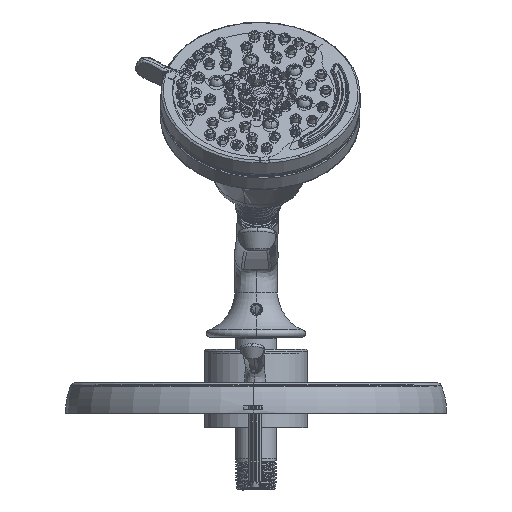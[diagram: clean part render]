
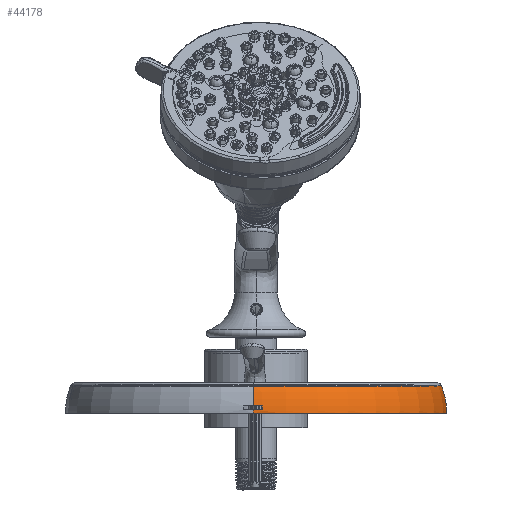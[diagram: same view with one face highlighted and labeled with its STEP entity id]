
A CAD part, front view. The second image highlights one B-rep face of the part: STEP entity #44178.
In plain terms, the highlighted toroidal (fillet/blend) face has major radius 57.353 mm and minor radius 38.1 mm.
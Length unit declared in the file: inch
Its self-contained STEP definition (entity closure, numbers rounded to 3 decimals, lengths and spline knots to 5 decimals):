
#315 = CIRCLE ( 'NONE', #21613, 3.74997 ) ;
#486 = ORIENTED_EDGE ( 'NONE', *, *, #48682, .T. ) ;
#3060 = CARTESIAN_POINT ( 'NONE',  ( 0.12031, 6.25075, 0.14339 ) ) ;
#3237 = AXIS2_PLACEMENT_3D ( 'NONE', #55073, #13820, #89098 ) ;
#4973 = CIRCLE ( 'NONE', #3237, 3.65177 ) ;
#6900 = CIRCLE ( 'NONE', #21142, 1.5 ) ;
#6923 = CARTESIAN_POINT ( 'NONE',  ( 0.19953, 13.7515, 0.05999 ) ) ;
#7556 = DIRECTION ( 'NONE',  ( -0.016, -1., 0. ) ) ;
#7860 = DIRECTION ( 'NONE',  ( 0.016, 1., 0. ) ) ;
#8605 = CARTESIAN_POINT ( 'NONE',  ( 0.22476, 13.75074, 0.04 ) ) ;
#8884 = CARTESIAN_POINT ( 'NONE',  ( 0., 10., 0. ) ) ;
#9547 = VERTEX_POINT ( 'NONE', #92476 ) ;
#11819 = CARTESIAN_POINT ( 'NONE',  ( 0.05816, 13.65131, 0.55443 ) ) ;
#11982 = CARTESIAN_POINT ( 'NONE',  ( 0.12025, 6.247, 0.09672 ) ) ;
#12795 = CARTESIAN_POINT ( 'NONE',  ( -0.05972, 6.25051, 0.155 ) ) ;
#13820 = DIRECTION ( 'NONE',  ( 0., 0., -1. ) ) ;
#17251 = DIRECTION ( 'NONE',  ( 0., 0., -1. ) ) ;
#17534 = EDGE_CURVE ( 'NONE', #77419, #24711, #315, .T. ) ;
#17782 = VERTEX_POINT ( 'NONE', #64576 ) ;
#18314 = CARTESIAN_POINT ( 'NONE',  ( 0.22477, 13.75127, 0.00666 ) ) ;
#18426 = ORIENTED_EDGE ( 'NONE', *, *, #33464, .T. ) ;
#19407 = CARTESIAN_POINT ( 'NONE',  ( -0.05816, 6.34869, 0.55443 ) ) ;
#20470 = DIRECTION ( 'NONE',  ( -1., 0.016, 0. ) ) ;
#21013 = DIRECTION ( 'NONE',  ( -0.016, -1., 0. ) ) ;
#21142 = AXIS2_PLACEMENT_3D ( 'NONE', #46994, #74153, #65799 ) ;
#21613 = AXIS2_PLACEMENT_3D ( 'NONE', #83659, #30837, #7860 ) ;
#21865 = CARTESIAN_POINT ( 'NONE',  ( 0.1848, 13.75314, 0.03061 ) ) ;
#21894 = FACE_OUTER_BOUND ( 'NONE', #28018, .T. ) ;
#24003 = ORIENTED_EDGE ( 'NONE', *, *, #102015, .F. ) ;
#24711 = VERTEX_POINT ( 'NONE', #25262 ) ;
#25262 = CARTESIAN_POINT ( 'NONE',  ( 0.12032, 6.25196, 0.155 ) ) ;
#28018 = EDGE_LOOP ( 'NONE', ( #77772, #99865, #60243, #34970, #486, #64589, #66783, #106186, #24003, #37711, #18426, #49691 ) ) ;
#30265 = AXIS2_PLACEMENT_3D ( 'NONE', #37166, #20470, #21013 ) ;
#30588 = EDGE_CURVE ( 'NONE', #84080, #92352, #44022, .T. ) ;
#30837 = DIRECTION ( 'NONE',  ( 0., 0., 1. ) ) ;
#31169 = EDGE_CURVE ( 'NONE', #92352, #43684, #52323, .T. ) ;
#33099 = AXIS2_PLACEMENT_3D ( 'NONE', #35897, #69917, #79898 ) ;
#33464 = EDGE_CURVE ( 'NONE', #17782, #57582, #54417, .T. ) ;
#34258 = CARTESIAN_POINT ( 'NONE',  ( -0.03596, 7.74229, 0. ) ) ;
#34919 = AXIS2_PLACEMENT_3D ( 'NONE', #38062, #53292, #70022 ) ;
#34970 = ORIENTED_EDGE ( 'NONE', *, *, #68013, .T. ) ;
#35355 = CARTESIAN_POINT ( 'NONE',  ( 0., 10., 0.085 ) ) ;
#35897 = CARTESIAN_POINT ( 'NONE',  ( 0., 10., 0.03061 ) ) ;
#36038 = VERTEX_POINT ( 'NONE', #11819 ) ;
#36423 = DIRECTION ( 'NONE',  ( 0.016, 1., 0. ) ) ;
#36963 = EDGE_CURVE ( 'NONE', #17782, #77756, #49818, .T. ) ;
#37166 = CARTESIAN_POINT ( 'NONE',  ( 0.03596, 12.25771, 0. ) ) ;
#37711 = ORIENTED_EDGE ( 'NONE', *, *, #36963, .F. ) ;
#38062 = CARTESIAN_POINT ( 'NONE',  ( 0., 10., 0. ) ) ;
#39353 = B_SPLINE_CURVE_WITH_KNOTS ( 'NONE', 3,
 ( #60510, #3060, #62701, #11982, #80511 ),
 .UNSPECIFIED., .F., .F.,
 ( 4, 1, 4 ),
 ( 0.11257, 0.11346, 0.11434 ),
 .UNSPECIFIED. ) ;
#40237 = CARTESIAN_POINT ( 'NONE',  ( 0.18479, 13.75304, 0.03531 ) ) ;
#41493 = CARTESIAN_POINT ( 'NONE',  ( 0.20995, 13.75093, 0.06001 ) ) ;
#42859 = CARTESIAN_POINT ( 'NONE',  ( 0.22476, 13.75074, 0.04 ) ) ;
#43684 = VERTEX_POINT ( 'NONE', #62886 ) ;
#44022 = B_SPLINE_CURVE_WITH_KNOTS ( 'NONE', 3,
 ( #42859, #78476, #68491, #51758, #18314, #76857 ),
 .UNSPECIFIED., .F., .F.,
 ( 4, 2, 4 ),
 ( 0.23843, 0.23893, 0.23943 ),
 .UNSPECIFIED. ) ;
#44178 = ADVANCED_FACE ( 'NONE', ( #21894 ), #52741, .T. ) ;
#44253 = DIRECTION ( 'NONE',  ( 1., -0.016, 0. ) ) ;
#46994 = CARTESIAN_POINT ( 'NONE',  ( -0.03596, 7.74229, 0. ) ) ;
#48682 = EDGE_CURVE ( 'NONE', #9547, #104257, #56201, .T. ) ;
#48717 = CARTESIAN_POINT ( 'NONE',  ( 0.18695, 13.7525, 0.05045 ) ) ;
#49691 = ORIENTED_EDGE ( 'NONE', *, *, #80122, .F. ) ;
#49818 = B_SPLINE_CURVE_WITH_KNOTS ( 'NONE', 3,
 ( #21865, #98787, #40237, #55833, #74225 ),
 .UNSPECIFIED., .F., .F.,
 ( 4, 1, 4 ),
 ( 0.00004, 0.00016, 0.00027 ),
 .UNSPECIFIED. ) ;
#49819 = CARTESIAN_POINT ( 'NONE',  ( 0.18479, 13.75292, 0.04 ) ) ;
#50072 = CARTESIAN_POINT ( 'NONE',  ( 0.22476, 13.75074, 0.04 ) ) ;
#51758 = CARTESIAN_POINT ( 'NONE',  ( 0.22477, 13.75123, 0.01332 ) ) ;
#52317 = DIRECTION ( 'NONE',  ( 0.016, 1., 0. ) ) ;
#52323 = CIRCLE ( 'NONE', #95074, 3.758 ) ;
#52741 = TOROIDAL_SURFACE ( 'NONE', #34919, 2.258, 1.5 ) ;
#53292 = DIRECTION ( 'NONE',  ( 0., 0., -1. ) ) ;
#54417 = CIRCLE ( 'NONE', #33099, 3.75769 ) ;
#55073 = CARTESIAN_POINT ( 'NONE',  ( 0., 10., 0.55443 ) ) ;
#55833 = CARTESIAN_POINT ( 'NONE',  ( 0.18479, 13.75296, 0.03844 ) ) ;
#56201 = CIRCLE ( 'NONE', #72229, 3.75559 ) ;
#57582 = VERTEX_POINT ( 'NONE', #95459 ) ;
#60243 = ORIENTED_EDGE ( 'NONE', *, *, #17534, .T. ) ;
#60510 = CARTESIAN_POINT ( 'NONE',  ( 0.12032, 6.25196, 0.155 ) ) ;
#61591 = EDGE_CURVE ( 'NONE', #36038, #68424, #4973, .T. ) ;
#62701 = CARTESIAN_POINT ( 'NONE',  ( 0.12027, 6.24861, 0.12011 ) ) ;
#62886 = CARTESIAN_POINT ( 'NONE',  ( -0.05985, 6.24248, 0. ) ) ;
#64350 = EDGE_CURVE ( 'NONE', #68424, #77419, #6900, .T. ) ;
#64576 = CARTESIAN_POINT ( 'NONE',  ( 0.1848, 13.75314, 0.03061 ) ) ;
#64589 = ORIENTED_EDGE ( 'NONE', *, *, #89663, .T. ) ;
#65799 = DIRECTION ( 'NONE',  ( 0.016, 1., 0. ) ) ;
#66006 = CARTESIAN_POINT ( 'NONE',  ( 0.21515, 13.75072, 0.05789 ) ) ;
#66783 = ORIENTED_EDGE ( 'NONE', *, *, #31169, .F. ) ;
#68013 = EDGE_CURVE ( 'NONE', #24711, #9547, #39353, .T. ) ;
#68424 = VERTEX_POINT ( 'NONE', #19407 ) ;
#68491 = CARTESIAN_POINT ( 'NONE',  ( 0.22477, 13.75105, 0.02665 ) ) ;
#69917 = DIRECTION ( 'NONE',  ( 0., 0., 1. ) ) ;
#70022 = DIRECTION ( 'NONE',  ( 0.016, 1., 0. ) ) ;
#72229 = AXIS2_PLACEMENT_3D ( 'NONE', #35355, #100662, #7556 ) ;
#74153 = DIRECTION ( 'NONE',  ( 1., -0.016, 0. ) ) ;
#74225 = CARTESIAN_POINT ( 'NONE',  ( 0.18479, 13.75292, 0.04 ) ) ;
#76857 = CARTESIAN_POINT ( 'NONE',  ( 0.22477, 13.75127, 0. ) ) ;
#77419 = VERTEX_POINT ( 'NONE', #12795 ) ;
#77756 = VERTEX_POINT ( 'NONE', #49819 ) ;
#77772 = ORIENTED_EDGE ( 'NONE', *, *, #61591, .T. ) ;
#78476 = CARTESIAN_POINT ( 'NONE',  ( 0.22476, 13.75092, 0.03333 ) ) ;
#79898 = DIRECTION ( 'NONE',  ( 0.016, 1., 0. ) ) ;
#80122 = EDGE_CURVE ( 'NONE', #36038, #57582, #94454, .T. ) ;
#80511 = CARTESIAN_POINT ( 'NONE',  ( 0.12024, 6.24634, 0.085 ) ) ;
#83457 = CARTESIAN_POINT ( 'NONE',  ( 0.22477, 13.75127, 0. ) ) ;
#83659 = CARTESIAN_POINT ( 'NONE',  ( 0., 10., 0.155 ) ) ;
#84080 = VERTEX_POINT ( 'NONE', #50072 ) ;
#84292 = CIRCLE ( 'NONE', #93214, 1.5 ) ;
#84974 = CARTESIAN_POINT ( 'NONE',  ( 0.22476, 13.7506, 0.04529 ) ) ;
#89098 = DIRECTION ( 'NONE',  ( 0.016, 1., 0. ) ) ;
#89663 = EDGE_CURVE ( 'NONE', #104257, #43684, #84292, .T. ) ;
#91106 = CARTESIAN_POINT ( 'NONE',  ( 0.18479, 13.75278, 0.04529 ) ) ;
#91765 = CARTESIAN_POINT ( 'NONE',  ( -0.05981, 6.24489, 0.085 ) ) ;
#92352 = VERTEX_POINT ( 'NONE', #83457 ) ;
#92476 = CARTESIAN_POINT ( 'NONE',  ( 0.12024, 6.24634, 0.085 ) ) ;
#93214 = AXIS2_PLACEMENT_3D ( 'NONE', #34258, #44253, #36423 ) ;
#93340 = CARTESIAN_POINT ( 'NONE',  ( 0.19432, 13.75186, 0.05783 ) ) ;
#94454 = CIRCLE ( 'NONE', #30265, 1.5 ) ;
#95074 = AXIS2_PLACEMENT_3D ( 'NONE', #8884, #17251, #52317 ) ;
#95459 = CARTESIAN_POINT ( 'NONE',  ( 0.05984, 13.75721, 0.03061 ) ) ;
#97897 = B_SPLINE_CURVE_WITH_KNOTS ( 'NONE', 3,
 ( #99477, #91106, #48717, #93340, #6923, #41493, #66006, #110082, #84974, #8605 ),
 .UNSPECIFIED., .F., .F.,
 ( 4, 2, 2, 2, 4 ),
 ( 0., 0.0004, 0.00079, 0.00119, 0.00159 ),
 .UNSPECIFIED. ) ;
#98787 = CARTESIAN_POINT ( 'NONE',  ( 0.18479, 13.75311, 0.03218 ) ) ;
#99477 = CARTESIAN_POINT ( 'NONE',  ( 0.18479, 13.75292, 0.04 ) ) ;
#99865 = ORIENTED_EDGE ( 'NONE', *, *, #64350, .T. ) ;
#100662 = DIRECTION ( 'NONE',  ( 0., 0., -1. ) ) ;
#102015 = EDGE_CURVE ( 'NONE', #77756, #84080, #97897, .T. ) ;
#104257 = VERTEX_POINT ( 'NONE', #91765 ) ;
#106186 = ORIENTED_EDGE ( 'NONE', *, *, #30588, .F. ) ;
#110082 = CARTESIAN_POINT ( 'NONE',  ( 0.22262, 13.75056, 0.05043 ) ) ;
